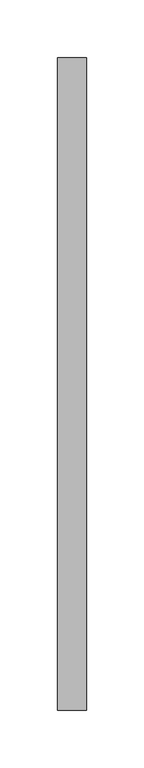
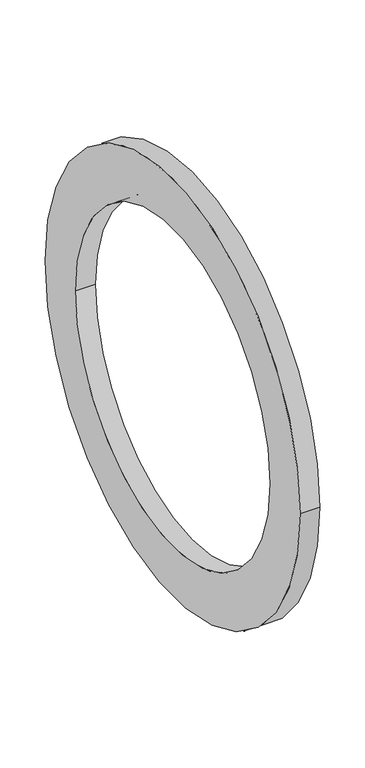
"""IFC4 building model written with IfcOpenShell, lengths in millimetres: pipe fitting geometry, NIRON accesorio brida : Estándar."""

import ifcopenshell
import ifcopenshell.guid

model = None  # the IFC model being written
_history = None  # IfcOwnerHistory: only IFC2X3 demands one
_inside = {}  # id of a spatial element -> (the spatial element, [elements in it])
_under = {}  # id of a project, library or spatial element -> (it, [spatial elements below it])
_declared = {}  # id of a project -> (the project, [libraries it declares])
_typed = {}  # id of a type object -> (the type object, [elements of that type])
_made_of = {}  # id of a material, layer set ... -> (it, [elements and type objects made of it])


def new_model(schema):
    """Start an empty IFC model of exactly this schema.

    Asked for "IFC4X3", IfcOpenShell would pick the latest addendum, in which some entities
    have other attributes; the version numbers below select the first issue.
    IFC2X3 requires an IfcOwnerHistory on every rooted entity: one is made here for all.
    """
    global model, _history
    if schema == "IFC4X3":
        model = ifcopenshell.file(schema_version=(4, 3, 0, 0))
    else:
        model = ifcopenshell.file(schema=schema)
    _inside.clear()
    _under.clear()
    _declared.clear()
    _typed.clear()
    _made_of.clear()
    _history = None
    if model.schema == "IFC2X3":
        org = make("IfcOrganization", Name="unknown")
        user = make(
            "IfcPersonAndOrganization",
            ThePerson=make("IfcPerson", FamilyName="unknown"),
            TheOrganization=org,
        )
        app = make(
            "IfcApplication",
            ApplicationDeveloper=org,
            Version="unknown",
            ApplicationFullName="unknown",
            ApplicationIdentifier="unknown",
        )
        _history = make(
            "IfcOwnerHistory",
            OwningUser=user,
            OwningApplication=app,
            ChangeAction="ADDED",
            CreationDate=0,
        )
    return model


def make(cls, **values):
    """One entity of the class cls with the attributes given. An attribute that is None is left unset."""
    return model.create_entity(
        cls, **{name: value for name, value in values.items() if value is not None}
    )


def rooted(cls, **values):
    """An entity with a GlobalId (a new one), such as an element, a storey or a relation."""
    return make(cls, GlobalId=ifcopenshell.guid.new(), OwnerHistory=_history, **values)


def si_unit(unit_type, name, prefix=None):
    """IfcSIUnit, for example si_unit("LENGTHUNIT", "METRE", prefix="MILLI")."""
    return make("IfcSIUnit", UnitType=unit_type, Prefix=prefix, Name=name)


def assignment(units):
    """IfcUnitAssignment: the units of a project."""
    return None if units is None else make("IfcUnitAssignment", Units=units)


def point(xyz):
    """IfcCartesianPoint."""
    return None if xyz is None else make("IfcCartesianPoint", Coordinates=xyz)


def direction(xyz):
    """IfcDirection."""
    return None if xyz is None else make("IfcDirection", DirectionRatios=xyz)


def frame(location, z_axis=None, x_axis=None):
    """IfcAxis2Placement3D, a coordinate frame: its origin and axes. An axis left out is left unset."""
    return make(
        "IfcAxis2Placement3D",
        Location=point(location),
        Axis=direction(z_axis),
        RefDirection=direction(x_axis),
    )


def frame_2d(location, x_axis=None):
    """IfcAxis2Placement2D, a coordinate frame in the plane: its origin and x axis."""
    return make(
        "IfcAxis2Placement2D", Location=point(location), RefDirection=direction(x_axis)
    )


def origin():
    """The frame at (0, 0, 0) with its axes left unset."""
    return frame((0.0, 0.0, 0.0))


def origin_2d():
    """The frame at (0, 0) in the plane with its x axis left unset."""
    return frame_2d((0.0, 0.0))


def place(relative_to, where):
    """IfcLocalPlacement: puts the frame where relative to a parent placement (None: the world)."""
    return make(
        "IfcLocalPlacement", PlacementRelTo=relative_to, RelativePlacement=where
    )


def context(
    kind, dimensions, precision=None, world=None, true_north=None, identifier=None
):
    """IfcGeometricRepresentationContext, for example the 3D "Model" context."""
    return make(
        "IfcGeometricRepresentationContext",
        ContextIdentifier=identifier,
        ContextType=kind,
        CoordinateSpaceDimension=dimensions,
        Precision=precision,
        WorldCoordinateSystem=world,
        TrueNorth=true_north,
    )


def project(units=None, contexts=None):
    """IfcProject with its units and contexts."""
    return rooted(
        "IfcProject",
        Name="project",
        RepresentationContexts=contexts,
        UnitsInContext=assignment(units),
    )


def spatial(cls, under=None, at=None, **own):
    """A site, building, storey or space (cls), placed at a placement, below another one or the project."""
    s = rooted(cls, ObjectPlacement=at, **own)
    if under is not None:
        _under.setdefault(under.id(), (under, []))[1].append(s)
    return s


def circle_curve(where, radius):
    """IfcCircle in the frame where."""
    return make("IfcCircle", Position=where, Radius=radius)


def trimmed(basis, trim1, trim2, sense, master):
    """IfcTrimmedCurve: the piece of a basis curve between two trims."""
    return make(
        "IfcTrimmedCurve",
        BasisCurve=basis,
        Trim1=trim1,
        Trim2=trim2,
        SenseAgreement=sense,
        MasterRepresentation=master,
    )


def segment(curve, same_sense, transition):
    """IfcCompositeCurveSegment."""
    return make(
        "IfcCompositeCurveSegment",
        Transition=transition,
        SameSense=same_sense,
        ParentCurve=curve,
    )


def composite_curve(segments, self_intersect=None):
    """IfcCompositeCurve: segments joined end to end."""
    return make("IfcCompositeCurve", Segments=segments, SelfIntersect=self_intersect)


def outline(outer, holes=None, kind="AREA"):
    """IfcArbitraryClosedProfileDef: a profile drawn as a closed curve; with holes, ...WithVoids."""
    if holes is None:
        return make("IfcArbitraryClosedProfileDef", ProfileType=kind, OuterCurve=outer)
    return make(
        "IfcArbitraryProfileDefWithVoids",
        ProfileType=kind,
        OuterCurve=outer,
        InnerCurves=holes,
    )


def extrude(swept, where, along, depth):
    """IfcExtrudedAreaSolid: the profile swept, set in the frame where, extruded along a direction by depth."""
    return make(
        "IfcExtrudedAreaSolid",
        SweptArea=swept,
        Position=where,
        ExtrudedDirection=direction(along),
        Depth=depth,
    )


def shape(context_of_items, identifier, shape_type, items):
    """IfcShapeRepresentation: the items that make up one representation, for example the "Body"."""
    return make(
        "IfcShapeRepresentation",
        ContextOfItems=context_of_items,
        RepresentationIdentifier=identifier,
        RepresentationType=shape_type,
        Items=items,
    )


def source(mapping_origin, context_of_items, identifier, shape_type, items):
    """IfcRepresentationMap: a shape defined once, which mapped items show again and again."""
    return make(
        "IfcRepresentationMap",
        MappingOrigin=mapping_origin,
        MappedRepresentation=shape(context_of_items, identifier, shape_type, items),
    )


def transform(
    local_origin,
    x_axis=None,
    y_axis=None,
    z_axis=None,
    scale=None,
    scale2=None,
    scale3=None,
    uniform=True,
):
    """IfcCartesianTransformationOperator3D, or its non-uniform kind. x_axis, y_axis, z_axis: its Axis1, 2, 3."""
    if uniform:
        return make(
            "IfcCartesianTransformationOperator3D",
            Axis1=direction(x_axis),
            Axis2=direction(y_axis),
            LocalOrigin=point(local_origin),
            Scale=scale,
            Axis3=direction(z_axis),
        )
    return make(
        "IfcCartesianTransformationOperator3DnonUniform",
        Axis1=direction(x_axis),
        Axis2=direction(y_axis),
        LocalOrigin=point(local_origin),
        Scale=scale,
        Axis3=direction(z_axis),
        Scale2=scale2,
        Scale3=scale3,
    )


def mapped(mapping_source, mapping_target):
    """IfcMappedItem: shows the shape of a source again, moved by a transform."""
    return make(
        "IfcMappedItem", MappingSource=mapping_source, MappingTarget=mapping_target
    )


def made_of(thing, what):
    """Note that an element or type object is made of a material, layer set ...; save() writes the relation."""
    if what is not None:
        _made_of.setdefault(what.id(), (what, []))[1].append(thing)
    return thing


def element(
    cls,
    number,
    at=None,
    inside=None,
    cuts=None,
    type_object=None,
    material=None,
    context=None,
    identifier="Body",
    shape_type=None,
    held_by="IfcProductDefinitionShape",
    body=None,
    shapes=None,
    **own,
):
    """One element of the class cls, such as IfcWall. Its Tag is "e" and its number.

    at: its placement. inside: the storey or other place that contains it. cuts: it is an
    opening in that element (IfcRelVoidsElement). A single representation is given by context,
    identifier, shape_type and body (its items); several are given by shapes. held_by: the class
    of the entity that holds the representations. save() writes the other relations.
    """
    e = rooted(cls, Tag="e%d" % number, ObjectPlacement=at, **own)
    if body is not None:
        shapes = [shape(context, identifier, shape_type, body)]
    if shapes is not None:
        e.Representation = make(held_by, Representations=shapes)
    if inside is not None:
        _inside.setdefault(inside.id(), (inside, []))[1].append(e)
    if cuts is not None:
        rooted(
            "IfcRelVoidsElement", RelatingBuildingElement=cuts, RelatedOpeningElement=e
        )
    if type_object is not None:
        _typed.setdefault(type_object.id(), (type_object, []))[1].append(e)
    return made_of(e, material)


def aggregate(whole, parts):
    """IfcRelAggregates: a whole, such as a stair, and the parts it consists of."""
    return rooted("IfcRelAggregates", RelatingObject=whole, RelatedObjects=parts)


def save(model, path):
    """Write the relations noted so far, then the file.

    IfcRelAggregates (storeys below a building ...), IfcRelContainedInSpatialStructure (elements
    in a storey), IfcRelDefinesByType, IfcRelAssociatesMaterial and IfcRelDeclares: one each for
    every whole, place, type object, material and project.
    """
    for whole, parts in _under.values():
        aggregate(whole, parts)
    for where, things in _inside.values():
        rooted(
            "IfcRelContainedInSpatialStructure",
            RelatedElements=things,
            RelatingStructure=where,
        )
    for kind, things in _typed.values():
        rooted("IfcRelDefinesByType", RelatedObjects=things, RelatingType=kind)
    for what, things in _made_of.values():
        rooted("IfcRelAssociatesMaterial", RelatedObjects=things, RelatingMaterial=what)
    for by, libraries in _declared.values():
        rooted("IfcRelDeclares", RelatingContext=by, RelatedDefinitions=libraries)
    model.write(path)


def pipe_fitting_97b97e6b(model_context):
    return source(origin(), model_context, "Body", "SweptSolid", [
        extrude(outline(composite_curve([segment(trimmed(circle_curve(origin_2d(), 282.5), [point((282.5, 0.0))], [point((-282.5, 0.0))], False, "CARTESIAN"), True, "CONTINUOUS"), segment(trimmed(circle_curve(origin_2d(), 282.5), [point((-282.5, 0.0))], [point((282.5, 0.0))], False, "CARTESIAN"), True, "CONTINUOUS")], self_intersect=False), holes=[composite_curve([segment(trimmed(circle_curve(origin_2d(), 215.0), [point((215.0, 0.0))], [point((-215.0, 0.0))], True, "CARTESIAN"), True, "CONTINUOUS"), segment(trimmed(circle_curve(origin_2d(), 215.0), [point((-215.0, 0.0))], [point((215.0, 0.0))], True, "CARTESIAN"), True, "CONTINUOUS")], self_intersect=False)]), frame((2.4830127, 0.0, 0.0), z_axis=(1.0, 0.0, 0.0), x_axis=(0.0, 1.0, 0.0)), (0.0, 0.0, 1.0), 25.0),
    ])


if __name__ == "__main__":
    model = new_model("IFC4")
    model_context = context("Model", 3, world=origin())
    ifc_project = project(units=[si_unit("LENGTHUNIT", "METRE", prefix="MILLI")], contexts=[model_context])
    site = spatial("IfcSite", under=ifc_project)
    building = spatial("IfcBuilding", under=site)
    placement = place(None, origin())
    pipe_fitting_shape = pipe_fitting_97b97e6b(model_context)
    element("IfcPipeFitting", 1, ObjectType="NIRON accesorio brida : Estándar", at=placement, inside=building, context=model_context, shape_type="MappedRepresentation", body=[
        mapped(pipe_fitting_shape, transform((0.0, 0.0, 0.0), x_axis=(1.0, 0.0, 0.0), y_axis=(0.0, 1.0, 0.0), z_axis=(0.0, 0.0, 1.0))),
    ])
    save(model, "model.ifc")
